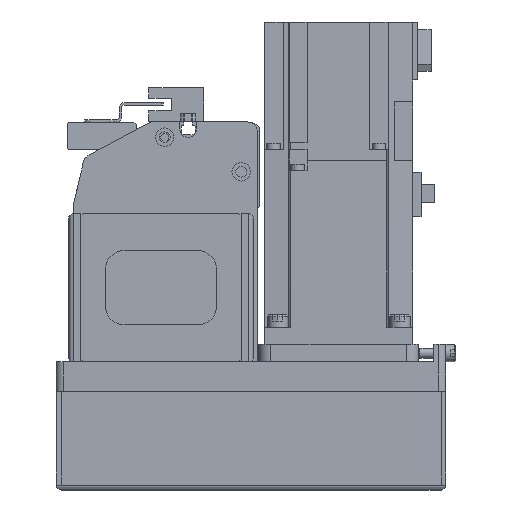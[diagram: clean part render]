
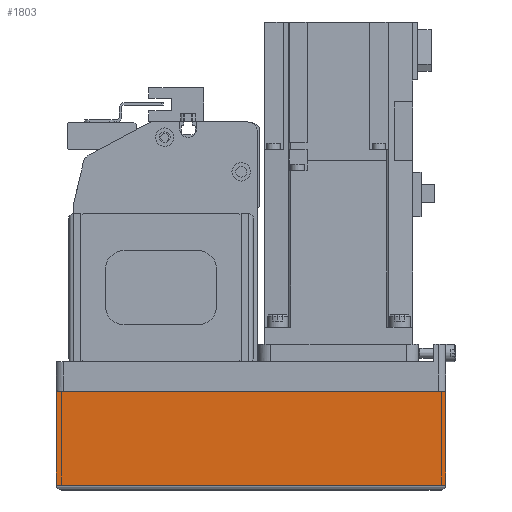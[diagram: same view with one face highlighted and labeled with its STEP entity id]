
A CAD part, left-side view. The second image highlights one B-rep face of the part: STEP entity #1803.
In plain terms, the highlighted planar face has unit normal (-1, 0, 0) as drawn and (0, 1, 0) by its records, which use the part's own axes.
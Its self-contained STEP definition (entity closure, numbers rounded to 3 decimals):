
#1803 = ADVANCED_FACE( '', ( #4318 ), #4319, .T. );
#4318 = FACE_OUTER_BOUND( '', #7687, .T. );
#4319 = PLANE( '', #7688 );
#7687 = EDGE_LOOP( '', ( #12770, #12771, #12772, #12773 ) );
#7688 = AXIS2_PLACEMENT_3D( '', #12774, #12775, #12776 );
#12770 = ORIENTED_EDGE( '', *, *, #20573, .F. );
#12771 = ORIENTED_EDGE( '', *, *, #19356, .F. );
#12772 = ORIENTED_EDGE( '', *, *, #20574, .T. );
#12773 = ORIENTED_EDGE( '', *, *, #20575, .T. );
#12774 = CARTESIAN_POINT( '', ( -158., 39., -50. ) );
#12775 = DIRECTION( '', ( 0., 1., 0. ) );
#12776 = DIRECTION( '', ( 0., 0., 1. ) );
#19356 = EDGE_CURVE( '', #23132, #23135, #23136, .T. );
#20573 = EDGE_CURVE( '', #23135, #25174, #25175, .T. );
#20574 = EDGE_CURVE( '', #23132, #25176, #25177, .T. );
#20575 = EDGE_CURVE( '', #25176, #25174, #25178, .T. );
#23132 = VERTEX_POINT( '', #28514 );
#23135 = VERTEX_POINT( '', #28517 );
#23136 = LINE( '', #28518, #28519 );
#25174 = VERTEX_POINT( '', #31684 );
#25175 = LINE( '', #31685, #31686 );
#25176 = VERTEX_POINT( '', #31687 );
#25177 = LINE( '', #31688, #31689 );
#25178 = LINE( '', #31690, #31691 );
#28514 = CARTESIAN_POINT( '', ( -158., 39., -50. ) );
#28517 = CARTESIAN_POINT( '', ( 0., 39., -50. ) );
#28518 = CARTESIAN_POINT( '', ( -158., 39., -50. ) );
#28519 = VECTOR( '', #35964, 1000. );
#31684 = CARTESIAN_POINT( '', ( 0., 39., -12.1 ) );
#31685 = CARTESIAN_POINT( '', ( 0., 39., -50. ) );
#31686 = VECTOR( '', #37503, 1000. );
#31687 = CARTESIAN_POINT( '', ( -158., 39., -12.1 ) );
#31688 = CARTESIAN_POINT( '', ( -158., 39., -50. ) );
#31689 = VECTOR( '', #37504, 1000. );
#31690 = CARTESIAN_POINT( '', ( -158., 39., -12.1 ) );
#31691 = VECTOR( '', #37505, 1000. );
#35964 = DIRECTION( '', ( 1., 0., 0. ) );
#37503 = DIRECTION( '', ( 0., 0., 1. ) );
#37504 = DIRECTION( '', ( 0., 0., 1. ) );
#37505 = DIRECTION( '', ( 1., 0., 0. ) );
